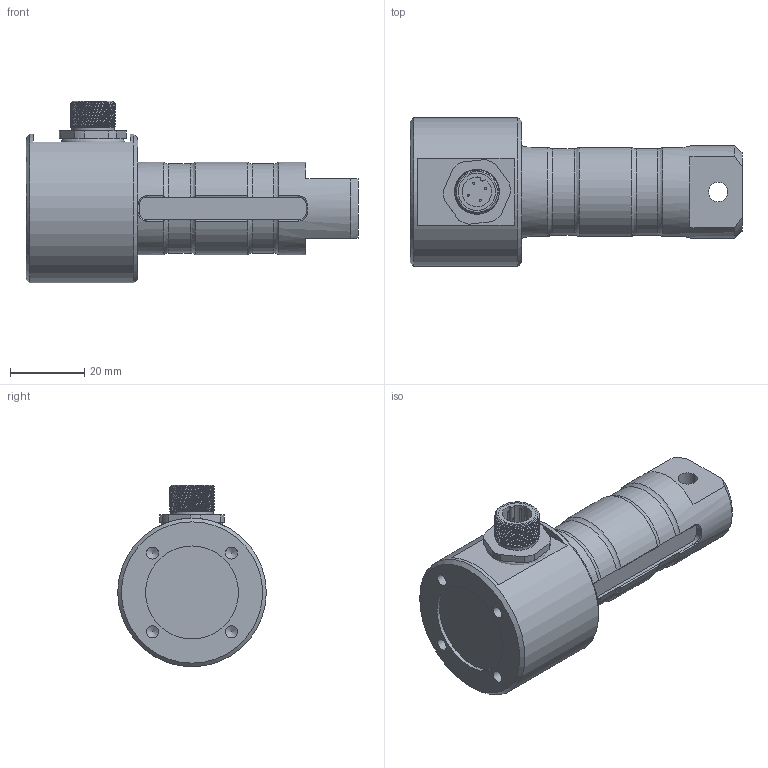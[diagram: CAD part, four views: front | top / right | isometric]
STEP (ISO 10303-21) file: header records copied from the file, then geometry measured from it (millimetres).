
FILE_DESCRIPTION(/* description */ ('Alibre Inc.'),/* implementation_level */ '2;1');
FILE_NAME(/* name */ 'export0',/* time_stamp */ '2015-06-11T12:33:44+02:00',/* author */ (''),/* organization */ (''),/* preprocessor_version */ 'ST-DEVELOPER v14',/* originating_system */ 'Alibre',/* authorisation */ '');
FILE_SCHEMA (('CONFIG_CONTROL_DESIGN'));
Length unit declared in the file: centimetre
Products named in the file (6): ID_1; ID_2; ID_3; ID_4
Bounding box: 89.3 x 40 x 48.86 mm (x, y, z)
Volume: 55871.8 mm3; surface area: 17042.9 mm2
Topology: 8 solids, 8 shells, 193 faces, 446 edges, 277 vertices
Faces by surface type: cylinder 72, plane 65, bspline 31, torus 13, cone 12
Full cylindrical faces by diameter (mm): 0.5 x8, 3.242 x4, 5.2 x1, 8 x2, 10 x3, 11.5 x1, 13 x1, 14.376 x1, 18 x1, 25 x3, 40 x1
Entity records: 16522 total; most frequent: CARTESIAN_POINT 12383, ORIENTED_EDGE 794, DIRECTION 540, EDGE_CURVE 392, VERTEX_POINT 265, FACE_BOUND 252, EDGE_LOOP 247, AXIS2_PLACEMENT_3D 241
